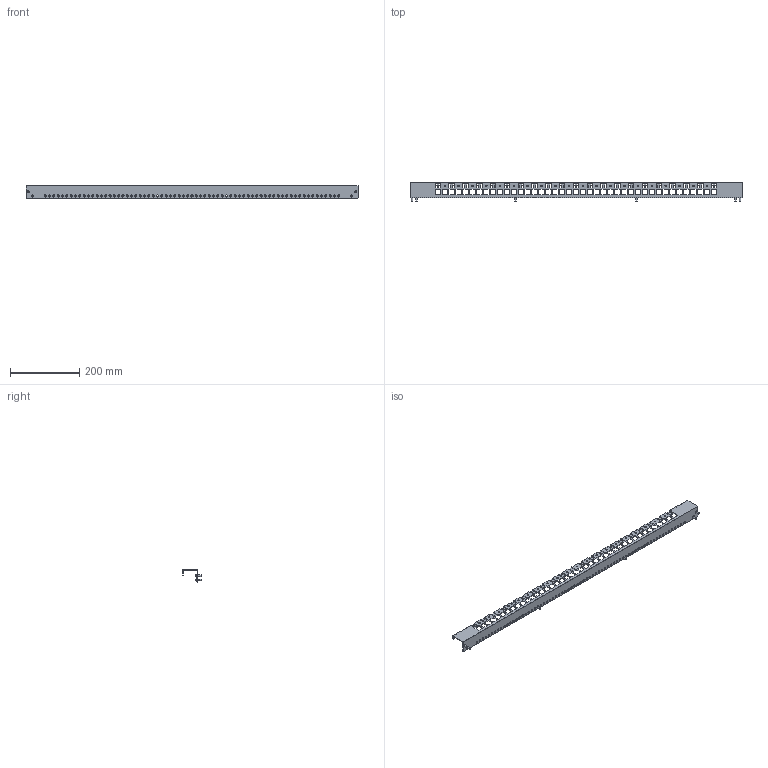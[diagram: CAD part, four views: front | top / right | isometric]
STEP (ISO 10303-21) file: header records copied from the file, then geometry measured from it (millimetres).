
FILE_DESCRIPTION(('Open CASCADE Model'),'2;1');
FILE_NAME('Open CASCADE Shape Model','2025-02-21T17:27:14',('Author'),( 'Open CASCADE'),'Open CASCADE STEP processor 7.8','Open CASCADE 7.8' ,'Unknown');
FILE_SCHEMA(('AUTOMOTIVE_DESIGN { 1 0 10303 214 1 1 1 1 }'));
Length unit declared in the file: millimetre
Products named in the file (3): Compound1; Solid1; Solid2
Assembly tree (7 placements, depth 2):
  Compound1
    Solid1
    Solid2  x6
Bounding box: 962 x 53.5 x 35 mm (x, y, z)
Volume: 140834.7 mm3; surface area: 158274.2 mm2
Topology: 7 solids, 7 shells, 737 faces, 2312 edges, 1553 vertices
Faces by surface type: plane 576, cylinder 125, torus 12, cone 12, sphere 6, bspline 6
Full cylindrical faces by diameter (mm): 4.4 x40, 5 x6, 6 x73, 9.5 x6
Entity records: 24588 total; most frequent: CARTESIAN_POINT 4779, ORIENTED_EDGE 4322, DIRECTION 3690, EDGE_CURVE 2161, LINE 1704, VECTOR 1704, VERTEX_POINT 1468, AXIS2_PLACEMENT_3D 993
